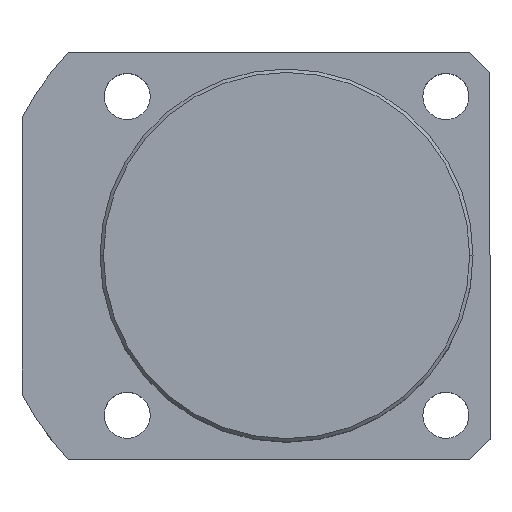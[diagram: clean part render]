
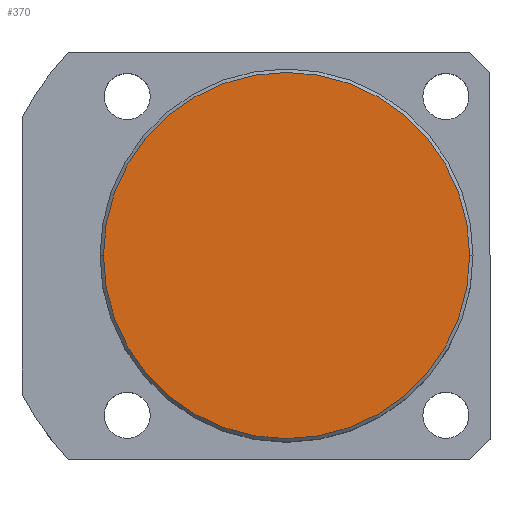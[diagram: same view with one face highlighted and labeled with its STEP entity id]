
A CAD part, top view. The second image highlights one B-rep face of the part: STEP entity #370.
In plain terms, the highlighted planar face has unit normal (0, 0, 1).
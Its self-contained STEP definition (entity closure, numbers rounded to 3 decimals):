
#90 = DIRECTION ( 'NONE',  ( 0., 0., 1. ) ) ;
#169 = VERTEX_POINT ( 'NONE', #1129 ) ;
#370 = ADVANCED_FACE ( 'NONE', ( #829 ), #402, .T. ) ;
#402 = PLANE ( 'NONE',  #918 ) ;
#499 = CARTESIAN_POINT ( 'NONE',  ( -27., 0., 40. ) ) ;
#513 = AXIS2_PLACEMENT_3D ( 'NONE', #1779, #775, #2119 ) ;
#563 = CIRCLE ( 'NONE', #1577, 27. ) ;
#649 = CIRCLE ( 'NONE', #513, 27. ) ;
#749 = EDGE_CURVE ( 'NONE', #1649, #169, #563, .T. ) ;
#775 = DIRECTION ( 'NONE',  ( 0., 0., 1. ) ) ;
#829 = FACE_OUTER_BOUND ( 'NONE', #1063, .T. ) ;
#863 = DIRECTION ( 'NONE',  ( 0., 0., 1. ) ) ;
#918 = AXIS2_PLACEMENT_3D ( 'NONE', #1414, #90, #1272 ) ;
#1063 = EDGE_LOOP ( 'NONE', ( #1783, #1621 ) ) ;
#1129 = CARTESIAN_POINT ( 'NONE',  ( 27., 0., 40. ) ) ;
#1272 = DIRECTION ( 'NONE',  ( 1., 0., 0. ) ) ;
#1414 = CARTESIAN_POINT ( 'NONE',  ( 0., 0., 40. ) ) ;
#1515 = EDGE_CURVE ( 'NONE', #169, #1649, #649, .T. ) ;
#1577 = AXIS2_PLACEMENT_3D ( 'NONE', #1881, #863, #2073 ) ;
#1621 = ORIENTED_EDGE ( 'NONE', *, *, #1515, .T. ) ;
#1649 = VERTEX_POINT ( 'NONE', #499 ) ;
#1779 = CARTESIAN_POINT ( 'NONE',  ( 0., 0., 40. ) ) ;
#1783 = ORIENTED_EDGE ( 'NONE', *, *, #749, .T. ) ;
#1881 = CARTESIAN_POINT ( 'NONE',  ( 0., 0., 40. ) ) ;
#2073 = DIRECTION ( 'NONE',  ( 1., 0., 0. ) ) ;
#2119 = DIRECTION ( 'NONE',  ( 1., 0., 0. ) ) ;
